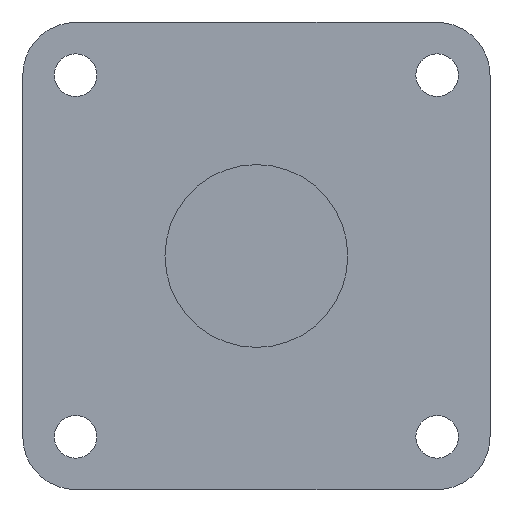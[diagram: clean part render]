
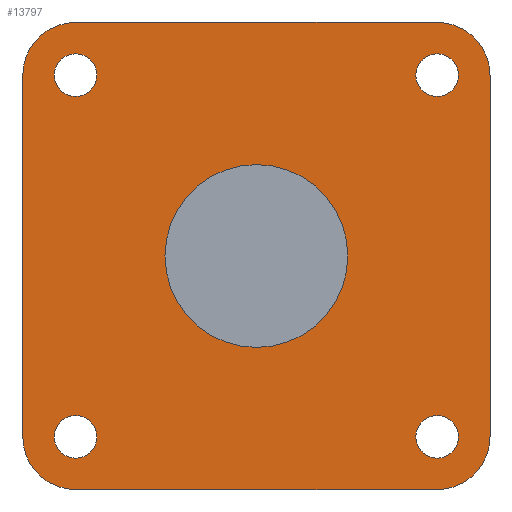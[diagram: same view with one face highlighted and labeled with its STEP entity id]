
A CAD part, left-side view. The second image highlights one B-rep face of the part: STEP entity #13797.
In plain terms, the highlighted planar face has unit normal (-1, 0, 0).
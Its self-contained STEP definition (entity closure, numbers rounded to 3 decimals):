
#12617=CARTESIAN_POINT('Line Origine',(-14.5,57.5,0.)) ;
#12621=CARTESIAN_POINT('Vertex',(-14.5,57.5,-44.5)) ;
#12623=CARTESIAN_POINT('Vertex',(-14.5,57.5,44.5)) ;
#13372=CARTESIAN_POINT('Vertex',(-14.5,49.75,44.5)) ;
#13375=CARTESIAN_POINT('Axis2P3D Location',(-14.5,44.5,44.5)) ;
#13379=CARTESIAN_POINT('Vertex',(-14.5,39.25,44.5)) ;
#13394=CARTESIAN_POINT('Axis2P3D Location',(-14.5,44.5,44.5)) ;
#13415=CARTESIAN_POINT('Vertex',(-14.5,49.75,-44.5)) ;
#13418=CARTESIAN_POINT('Axis2P3D Location',(-14.5,44.5,-44.5)) ;
#13422=CARTESIAN_POINT('Vertex',(-14.5,39.25,-44.5)) ;
#13437=CARTESIAN_POINT('Axis2P3D Location',(-14.5,44.5,-44.5)) ;
#13458=CARTESIAN_POINT('Vertex',(-14.5,-49.75,-44.5)) ;
#13461=CARTESIAN_POINT('Axis2P3D Location',(-14.5,-44.5,-44.5)) ;
#13465=CARTESIAN_POINT('Vertex',(-14.5,-39.25,-44.5)) ;
#13480=CARTESIAN_POINT('Axis2P3D Location',(-14.5,-44.5,-44.5)) ;
#13501=CARTESIAN_POINT('Vertex',(-14.5,-49.75,44.5)) ;
#13504=CARTESIAN_POINT('Axis2P3D Location',(-14.5,-44.5,44.5)) ;
#13508=CARTESIAN_POINT('Vertex',(-14.5,-39.25,44.5)) ;
#13523=CARTESIAN_POINT('Axis2P3D Location',(-14.5,-44.5,44.5)) ;
#13681=CARTESIAN_POINT('Vertex',(-14.5,22.5,0.)) ;
#13684=CARTESIAN_POINT('Axis2P3D Location',(-14.5,0.,0.)) ;
#13688=CARTESIAN_POINT('Vertex',(-14.5,-22.5,0.)) ;
#13703=CARTESIAN_POINT('Axis2P3D Location',(-14.5,0.,0.)) ;
#13715=CARTESIAN_POINT('Axis2P3D Location',(-14.5,0.,0.)) ;
#13720=CARTESIAN_POINT('Line Origine',(-14.5,0.,57.5)) ;
#13724=CARTESIAN_POINT('Vertex',(-14.5,44.5,57.5)) ;
#13726=CARTESIAN_POINT('Vertex',(-14.5,-44.5,57.5)) ;
#13729=CARTESIAN_POINT('Axis2P3D Location',(-14.5,44.5,44.5)) ;
#13734=CARTESIAN_POINT('Axis2P3D Location',(-14.5,44.5,-44.5)) ;
#13738=CARTESIAN_POINT('Vertex',(-14.5,44.5,-57.5)) ;
#13741=CARTESIAN_POINT('Line Origine',(-14.5,0.,-57.5)) ;
#13745=CARTESIAN_POINT('Vertex',(-14.5,-44.5,-57.5)) ;
#13748=CARTESIAN_POINT('Axis2P3D Location',(-14.5,-44.5,-44.5)) ;
#13752=CARTESIAN_POINT('Vertex',(-14.5,-57.5,-44.5)) ;
#13755=CARTESIAN_POINT('Line Origine',(-14.5,-57.5,0.)) ;
#13759=CARTESIAN_POINT('Vertex',(-14.5,-57.5,44.5)) ;
#13762=CARTESIAN_POINT('Axis2P3D Location',(-14.5,-44.5,44.5)) ;
#12618=DIRECTION('Vector Direction',(0.,0.,1.)) ;
#13376=DIRECTION('Axis2P3D Direction',(1.,0.,0.)) ;
#13395=DIRECTION('Axis2P3D Direction',(1.,0.,0.)) ;
#13419=DIRECTION('Axis2P3D Direction',(1.,0.,0.)) ;
#13438=DIRECTION('Axis2P3D Direction',(1.,0.,0.)) ;
#13462=DIRECTION('Axis2P3D Direction',(1.,0.,0.)) ;
#13481=DIRECTION('Axis2P3D Direction',(1.,0.,0.)) ;
#13505=DIRECTION('Axis2P3D Direction',(1.,0.,0.)) ;
#13524=DIRECTION('Axis2P3D Direction',(1.,0.,0.)) ;
#13685=DIRECTION('Axis2P3D Direction',(-1.,-0.,0.)) ;
#13704=DIRECTION('Axis2P3D Direction',(-1.,-0.,0.)) ;
#13716=DIRECTION('Axis2P3D Direction',(1.,0.,0.)) ;
#13717=DIRECTION('Axis2P3D XDirection',(0.,1.,0.)) ;
#13721=DIRECTION('Vector Direction',(0.,1.,0.)) ;
#13730=DIRECTION('Axis2P3D Direction',(1.,0.,0.)) ;
#13735=DIRECTION('Axis2P3D Direction',(1.,0.,0.)) ;
#13742=DIRECTION('Vector Direction',(0.,-1.,0.)) ;
#13749=DIRECTION('Axis2P3D Direction',(1.,0.,0.)) ;
#13756=DIRECTION('Vector Direction',(0.,0.,-1.)) ;
#13763=DIRECTION('Axis2P3D Direction',(1.,0.,0.)) ;
#13377=AXIS2_PLACEMENT_3D('Circle Axis2P3D',#13375,#13376,$) ;
#13396=AXIS2_PLACEMENT_3D('Circle Axis2P3D',#13394,#13395,$) ;
#13420=AXIS2_PLACEMENT_3D('Circle Axis2P3D',#13418,#13419,$) ;
#13439=AXIS2_PLACEMENT_3D('Circle Axis2P3D',#13437,#13438,$) ;
#13463=AXIS2_PLACEMENT_3D('Circle Axis2P3D',#13461,#13462,$) ;
#13482=AXIS2_PLACEMENT_3D('Circle Axis2P3D',#13480,#13481,$) ;
#13506=AXIS2_PLACEMENT_3D('Circle Axis2P3D',#13504,#13505,$) ;
#13525=AXIS2_PLACEMENT_3D('Circle Axis2P3D',#13523,#13524,$) ;
#13686=AXIS2_PLACEMENT_3D('Circle Axis2P3D',#13684,#13685,$) ;
#13705=AXIS2_PLACEMENT_3D('Circle Axis2P3D',#13703,#13704,$) ;
#13718=AXIS2_PLACEMENT_3D('Plane Axis2P3D',#13715,#13716,#13717) ;
#13731=AXIS2_PLACEMENT_3D('Circle Axis2P3D',#13729,#13730,$) ;
#13736=AXIS2_PLACEMENT_3D('Circle Axis2P3D',#13734,#13735,$) ;
#13750=AXIS2_PLACEMENT_3D('Circle Axis2P3D',#13748,#13749,$) ;
#13764=AXIS2_PLACEMENT_3D('Circle Axis2P3D',#13762,#13763,$) ;
#13768=ORIENTED_EDGE('',*,*,#13728,.F.) ;
#13769=ORIENTED_EDGE('',*,*,#13733,.F.) ;
#13770=ORIENTED_EDGE('',*,*,#12625,.F.) ;
#13771=ORIENTED_EDGE('',*,*,#13740,.F.) ;
#13772=ORIENTED_EDGE('',*,*,#13747,.F.) ;
#13773=ORIENTED_EDGE('',*,*,#13754,.F.) ;
#13774=ORIENTED_EDGE('',*,*,#13761,.F.) ;
#13775=ORIENTED_EDGE('',*,*,#13766,.F.) ;
#13778=ORIENTED_EDGE('',*,*,#13690,.F.) ;
#13779=ORIENTED_EDGE('',*,*,#13707,.F.) ;
#13782=ORIENTED_EDGE('',*,*,#13510,.T.) ;
#13783=ORIENTED_EDGE('',*,*,#13527,.T.) ;
#13786=ORIENTED_EDGE('',*,*,#13467,.T.) ;
#13787=ORIENTED_EDGE('',*,*,#13484,.T.) ;
#13790=ORIENTED_EDGE('',*,*,#13424,.T.) ;
#13791=ORIENTED_EDGE('',*,*,#13441,.T.) ;
#13794=ORIENTED_EDGE('',*,*,#13381,.T.) ;
#13795=ORIENTED_EDGE('',*,*,#13398,.T.) ;
#13780=FACE_BOUND('',#13777,.T.) ;
#13784=FACE_BOUND('',#13781,.T.) ;
#13788=FACE_BOUND('',#13785,.T.) ;
#13792=FACE_BOUND('',#13789,.T.) ;
#13796=FACE_BOUND('',#13793,.T.) ;
#12619=VECTOR('Line Direction',#12618,1.) ;
#13722=VECTOR('Line Direction',#13721,1.) ;
#13743=VECTOR('Line Direction',#13742,1.) ;
#13757=VECTOR('Line Direction',#13756,1.) ;
#13797=ADVANCED_FACE('PartBody',(#13776,#13780,#13784,#13788,#13792,#13796),#13719,.F.) ;
#13378=CIRCLE('generated circle',#13377,5.25) ;
#13397=CIRCLE('generated circle',#13396,5.25) ;
#13421=CIRCLE('generated circle',#13420,5.25) ;
#13440=CIRCLE('generated circle',#13439,5.25) ;
#13464=CIRCLE('generated circle',#13463,5.25) ;
#13483=CIRCLE('generated circle',#13482,5.25) ;
#13507=CIRCLE('generated circle',#13506,5.25) ;
#13526=CIRCLE('generated circle',#13525,5.25) ;
#13687=CIRCLE('generated circle',#13686,22.5) ;
#13706=CIRCLE('generated circle',#13705,22.5) ;
#13732=CIRCLE('generated circle',#13731,13.) ;
#13737=CIRCLE('generated circle',#13736,13.) ;
#13751=CIRCLE('generated circle',#13750,13.) ;
#13765=CIRCLE('generated circle',#13764,13.) ;
#12625=EDGE_CURVE('',#12622,#12624,#12620,.T.) ;
#13381=EDGE_CURVE('',#13380,#13373,#13378,.T.) ;
#13398=EDGE_CURVE('',#13373,#13380,#13397,.T.) ;
#13424=EDGE_CURVE('',#13423,#13416,#13421,.T.) ;
#13441=EDGE_CURVE('',#13416,#13423,#13440,.T.) ;
#13467=EDGE_CURVE('',#13466,#13459,#13464,.T.) ;
#13484=EDGE_CURVE('',#13459,#13466,#13483,.T.) ;
#13510=EDGE_CURVE('',#13509,#13502,#13507,.T.) ;
#13527=EDGE_CURVE('',#13502,#13509,#13526,.T.) ;
#13690=EDGE_CURVE('',#13682,#13689,#13687,.T.) ;
#13707=EDGE_CURVE('',#13689,#13682,#13706,.T.) ;
#13728=EDGE_CURVE('',#13725,#13727,#13723,.F.) ;
#13733=EDGE_CURVE('',#12624,#13725,#13732,.T.) ;
#13740=EDGE_CURVE('',#13739,#12622,#13737,.T.) ;
#13747=EDGE_CURVE('',#13746,#13739,#13744,.F.) ;
#13754=EDGE_CURVE('',#13753,#13746,#13751,.T.) ;
#13761=EDGE_CURVE('',#13760,#13753,#13758,.T.) ;
#13766=EDGE_CURVE('',#13727,#13760,#13765,.T.) ;
#13767=EDGE_LOOP('',(#13768,#13769,#13770,#13771,#13772,#13773,#13774,#13775)) ;
#13777=EDGE_LOOP('',(#13778,#13779)) ;
#13781=EDGE_LOOP('',(#13782,#13783)) ;
#13785=EDGE_LOOP('',(#13786,#13787)) ;
#13789=EDGE_LOOP('',(#13790,#13791)) ;
#13793=EDGE_LOOP('',(#13794,#13795)) ;
#13776=FACE_OUTER_BOUND('',#13767,.T.) ;
#12620=LINE('Line',#12617,#12619) ;
#13723=LINE('Line',#13720,#13722) ;
#13744=LINE('Line',#13741,#13743) ;
#13758=LINE('Line',#13755,#13757) ;
#13719=PLANE('',#13718) ;
#12622=VERTEX_POINT('',#12621) ;
#12624=VERTEX_POINT('',#12623) ;
#13373=VERTEX_POINT('',#13372) ;
#13380=VERTEX_POINT('',#13379) ;
#13416=VERTEX_POINT('',#13415) ;
#13423=VERTEX_POINT('',#13422) ;
#13459=VERTEX_POINT('',#13458) ;
#13466=VERTEX_POINT('',#13465) ;
#13502=VERTEX_POINT('',#13501) ;
#13509=VERTEX_POINT('',#13508) ;
#13682=VERTEX_POINT('',#13681) ;
#13689=VERTEX_POINT('',#13688) ;
#13725=VERTEX_POINT('',#13724) ;
#13727=VERTEX_POINT('',#13726) ;
#13739=VERTEX_POINT('',#13738) ;
#13746=VERTEX_POINT('',#13745) ;
#13753=VERTEX_POINT('',#13752) ;
#13760=VERTEX_POINT('',#13759) ;
